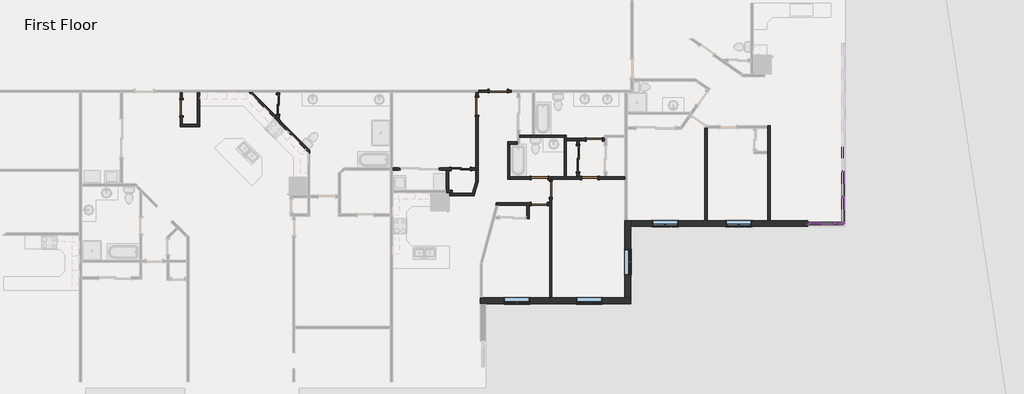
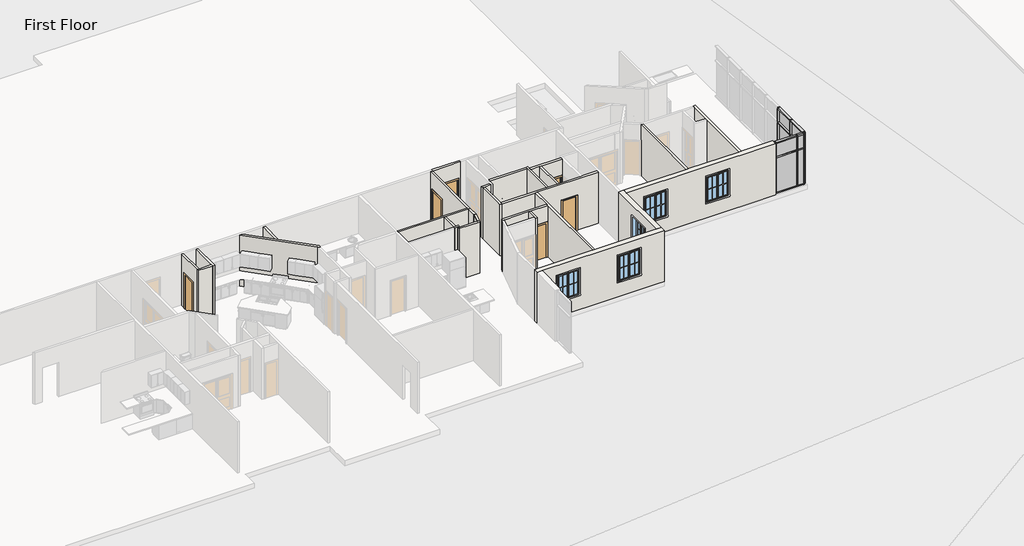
# One storey, part 5 of 17: 28 walls, 25 members, 11 doors, 8 plates, 5 windows.
"""IFC4 building model written with IfcOpenShell, lengths in millimetres."""

from ifc_helpers import new_model, si_unit, frame, origin, origin_with_axes, place, context, project, spatial, polyline, outline, extrude, faceted_brep, transform, mapped, element, save
from components import door_d8f5dbb5, door_f2b275c1, door_825b8444, door_c29894e6, door_88c23cd7, door_900f836f, rectangular_mullion_rectangular_mullion_1_fa3625a1, rectangular_mullion_rectangular_mullion_1_7cbf0b94, rectangular_mullion_rectangular_mullion_1_6186cc23, rectangular_mullion_rectangular_mullion_1_049a2e78, rectangular_mullion_rectangular_mullion_1_a50b3cda, rectangular_mullion_rectangular_mullion_1_5cd4c5ac, rectangular_mullion_rectangular_mullion_1_64aff199, rectangular_mullion_rectangular_mullion_1_b6c962ab, system_panel_glazed_0ed27d1d, system_panel_glazed_134bacdb, system_panel_glazed_a3383988, system_panel_glazed_d9a092fd, window_33528cc2

model = new_model("IFC4")

# Units and contexts
model_context = context("Model", 3, world=origin())
ifc_project = project(units=[si_unit("LENGTHUNIT", "METRE", prefix="MILLI")], contexts=[model_context])

# Site, building, storey
site = spatial("IfcSite", under=ifc_project)
building = spatial("IfcBuilding", under=site)
storey = spatial("IfcBuildingStorey", under=building, Name="First Floor", Elevation=0.0)

# Doors
placement = place(None, origin())
door_shape = door_d8f5dbb5(model_context)
element("IfcDoor", 1, ObjectType="Single-Flush : 30\" x 80\"", at=placement, inside=storey, context=model_context, shape_type="MappedRepresentation", body=[
    mapped(door_shape, transform((51780.2479881, -6937.3917963, 0.0), x_axis=(1.0, 0.0, 0.0), y_axis=(0.0, 1.0, 0.0), z_axis=(0.0, 0.0, 1.0))),
])
element("IfcDoor", 2, ObjectType="Single-Flush : 30\" x 80\"", at=placement, inside=storey, context=model_context, shape_type="MappedRepresentation", body=[
    mapped(door_shape, transform((32213.1466966, -5438.7917963, 0.0), x_axis=(0.0, 1.0, 0.0), y_axis=(-1.0, 0.0, 0.0), z_axis=(0.0, 0.0, 1.0))),
])
door_2_shape = door_f2b275c1(model_context)
element("IfcDoor", 3, ObjectType="Single-Flush : 30\" x 80\"", at=placement, inside=storey, context=model_context, shape_type="MappedRepresentation", body=[
    mapped(door_2_shape, transform((49185.2164857, -10003.6934793, 0.0), x_axis=(1.0, 0.0, 0.0), y_axis=(0.0, 1.0, 0.0), z_axis=(0.0, 0.0, 1.0))),
])
element("IfcDoor", 4, ObjectType="Single-Flush : 30\" x 80\"", at=placement, inside=storey, context=model_context, shape_type="MappedRepresentation", body=[
    mapped(door_2_shape, transform((49722.0869446, -9306.0763206, 0.0), x_axis=(0.0, 1.0, 0.0), y_axis=(-1.0, 0.0, 0.0), z_axis=(0.0, 0.0, 1.0))),
])
element("IfcDoor", 5, ObjectType="Single-Flush : 30\" x 80\"", at=placement, inside=storey, context=model_context, shape_type="MappedRepresentation", body=[
    mapped(door_2_shape, transform((51578.0008306, -8772.6763206, 0.0), x_axis=(-1.0, 0.0, 0.0), y_axis=(0.0, -1.0, 0.0), z_axis=(0.0, 0.0, 1.0))),
])
element("IfcDoor", 6, ObjectType="Single-Flush : 30\" x 80\"", at=placement, inside=storey, context=model_context, shape_type="MappedRepresentation", body=[
    mapped(door_2_shape, transform((49188.6869446, -8772.6763206, 0.0), x_axis=(-1.0, 0.0, 0.0), y_axis=(0.0, -1.0, 0.0), z_axis=(0.0, 0.0, 1.0))),
])
door_3_shape = door_825b8444(model_context)
element("IfcDoor", 7, ObjectType="Single-Flush : 34\" x 80\"", at=placement, inside=storey, context=model_context, shape_type="MappedRepresentation", body=[
    mapped(door_3_shape, transform((47235.4550668, -4651.3917963, 0.0), x_axis=(1.0, 0.0, 0.0), y_axis=(0.0, 1.0, 0.0), z_axis=(0.0, 0.0, 1.0))),
])
door_4_shape = door_c29894e6(model_context)
element("IfcDoor", 8, ObjectType="Single-Flush : 34\" x 80\"", at=placement, inside=storey, context=model_context, shape_type="MappedRepresentation", body=[
    mapped(door_4_shape, transform((46219.4550668, -5362.5917963, 0.0), x_axis=(0.0, 1.0, 0.0), y_axis=(-1.0, 0.0, 0.0), z_axis=(0.0, 0.0, 1.0))),
])
door_5_shape = door_88c23cd7(model_context)
element("IfcDoor", 9, ObjectType="Sliding-Closet : 36\" x 80\"", at=placement, inside=storey, context=model_context, shape_type="MappedRepresentation", body=[
    mapped(door_5_shape, transform((45452.5275875, -8462.220689, 0.0), x_axis=(1.0, 0.0, 0.0), y_axis=(0.0, 1.0, 0.0), z_axis=(0.0, 0.0, 1.0))),
])
element("IfcDoor", 10, ObjectType="Sliding-Closet : 36\" x 80\"", at=placement, inside=storey, context=model_context, shape_type="MappedRepresentation", body=[
    mapped(door_5_shape, transform((36679.0005062, -5286.3917963, 0.0), x_axis=(0.0, -1.0, 0.0), y_axis=(1.0, 0.0, 0.0), z_axis=(0.0, 0.0, 1.0))),
])
door_6_shape = door_900f836f(model_context)
element("IfcDoor", 11, ObjectType="Sliding-Closet : 48\" x 80\"", at=placement, inside=storey, context=model_context, shape_type="MappedRepresentation", body=[
    mapped(door_6_shape, transform((50892.2008306, -7855.0340584, 0.0), x_axis=(0.0, -1.0, 0.0), y_axis=(1.0, 0.0, 0.0), z_axis=(0.0, 0.0, 1.0))),
])

# Members
rectangular_mullion_rectangular_mullion_1_shape = rectangular_mullion_rectangular_mullion_1_fa3625a1(model_context)
element("IfcMember", 12, ObjectType="Rectangular Mullion : Rectangular Mullion 1", at=placement, inside=storey, context=model_context, shape_type="MappedRepresentation", body=[
    mapped(rectangular_mullion_rectangular_mullion_1_shape, transform((63120.5712707, -10920.5254097, 3048.0), x_axis=(0.0, 0.0, 1.0), y_axis=(0.0, -1.0, 0.0), z_axis=(1.0, 0.0, 0.0))),
])
element("IfcMember", 13, ObjectType="Rectangular Mullion : Rectangular Mullion 1", at=placement, inside=storey, context=model_context, shape_type="MappedRepresentation", body=[
    mapped(rectangular_mullion_rectangular_mullion_1_shape, transform((63577.7712704, -9701.3254094, 3048.0), x_axis=(0.0, 0.0, 1.0), y_axis=(1.0, 0.0, 0.0), z_axis=(0.0, 1.0, 0.0))),
])
element("IfcMember", 14, ObjectType="Rectangular Mullion : Rectangular Mullion 1", at=placement, inside=storey, context=model_context, shape_type="MappedRepresentation", body=[
    mapped(rectangular_mullion_rectangular_mullion_1_shape, transform((63577.7712704, -8482.1254094, 3048.0), x_axis=(0.0, 0.0, 1.0), y_axis=(1.0, 0.0, 0.0), z_axis=(0.0, 1.0, 0.0))),
])
element("IfcMember", 15, ObjectType="Rectangular Mullion : Rectangular Mullion 1", at=placement, inside=storey, context=model_context, shape_type="MappedRepresentation", body=[
    mapped(rectangular_mullion_rectangular_mullion_1_shape, transform((61964.8712704, -10920.5254097, 0.0), x_axis=(0.0, 0.0, -1.0), y_axis=(0.0, -1.0, 0.0), z_axis=(-1.0, 0.0, 0.0))),
])
element("IfcMember", 16, ObjectType="Rectangular Mullion : Rectangular Mullion 1", at=placement, inside=storey, context=model_context, shape_type="MappedRepresentation", body=[
    mapped(rectangular_mullion_rectangular_mullion_1_shape, transform((63577.7712704, -10857.0254097, 0.0), x_axis=(0.0, 0.0, -1.0), y_axis=(1.0, 0.0, 0.0), z_axis=(0.0, -1.0, 0.0))),
])
element("IfcMember", 17, ObjectType="Rectangular Mullion : Rectangular Mullion 1", at=placement, inside=storey, context=model_context, shape_type="MappedRepresentation", body=[
    mapped(rectangular_mullion_rectangular_mullion_1_shape, transform((63577.7712704, -9637.8254094, 0.0), x_axis=(0.0, 0.0, -1.0), y_axis=(1.0, 0.0, 0.0), z_axis=(0.0, -1.0, 0.0))),
])
element("IfcMember", 18, ObjectType="Rectangular Mullion : Rectangular Mullion 1", at=placement, inside=storey, context=model_context, shape_type="MappedRepresentation", body=[
    mapped(rectangular_mullion_rectangular_mullion_1_shape, transform((63577.7712704, -8418.6254094, 0.0), x_axis=(0.0, 0.0, -1.0), y_axis=(1.0, 0.0, 0.0), z_axis=(0.0, -1.0, 0.0))),
])
rectangular_mullion_rectangular_mullion_1_2_shape = rectangular_mullion_rectangular_mullion_1_7cbf0b94(model_context)
element("IfcMember", 19, ObjectType="Rectangular Mullion : Rectangular Mullion 1", at=placement, inside=storey, context=model_context, shape_type="MappedRepresentation", body=[
    mapped(rectangular_mullion_rectangular_mullion_1_2_shape, transform((63120.5712707, -10920.5254097, 2165.35), x_axis=(0.0, 0.0, 1.0), y_axis=(0.0, -1.0, 0.0), z_axis=(1.0, 0.0, 0.0))),
])
element("IfcMember", 20, ObjectType="Rectangular Mullion : Rectangular Mullion 1", at=placement, inside=storey, context=model_context, shape_type="MappedRepresentation", body=[
    mapped(rectangular_mullion_rectangular_mullion_1_2_shape, transform((63577.7712704, -9701.3254094, 2165.35), x_axis=(0.0, 0.0, 1.0), y_axis=(1.0, 0.0, 0.0), z_axis=(0.0, 1.0, 0.0))),
])
element("IfcMember", 21, ObjectType="Rectangular Mullion : Rectangular Mullion 1", at=placement, inside=storey, context=model_context, shape_type="MappedRepresentation", body=[
    mapped(rectangular_mullion_rectangular_mullion_1_2_shape, transform((63577.7712704, -8482.1254094, 2165.35), x_axis=(0.0, 0.0, 1.0), y_axis=(1.0, 0.0, 0.0), z_axis=(0.0, 1.0, 0.0))),
])
rectangular_mullion_rectangular_mullion_1_3_shape = rectangular_mullion_rectangular_mullion_1_6186cc23(model_context)
element("IfcMember", 22, ObjectType="Rectangular Mullion : Rectangular Mullion 1", at=placement, inside=storey, context=model_context, shape_type="MappedRepresentation", body=[
    mapped(rectangular_mullion_rectangular_mullion_1_3_shape, transform((63152.3212707, -10920.5254097, 0.0), x_axis=(1.0, 0.0, 0.0), y_axis=(0.0, -1.0, 0.0), z_axis=(0.0, 0.0, -1.0))),
])
element("IfcMember", 23, ObjectType="Rectangular Mullion : Rectangular Mullion 1", at=placement, inside=storey, context=model_context, shape_type="MappedRepresentation", body=[
    mapped(rectangular_mullion_rectangular_mullion_1_3_shape, transform((63577.7712704, -9669.5754094, 0.0), x_axis=(0.0, 1.0, 0.0), y_axis=(1.0, 0.0, 0.0), z_axis=(0.0, 0.0, -1.0))),
])
element("IfcMember", 24, ObjectType="Rectangular Mullion : Rectangular Mullion 1", at=placement, inside=storey, context=model_context, shape_type="MappedRepresentation", body=[
    mapped(rectangular_mullion_rectangular_mullion_1_3_shape, transform((63577.7712704, -8450.3754094, 0.0), x_axis=(0.0, 1.0, 0.0), y_axis=(1.0, 0.0, 0.0), z_axis=(0.0, 0.0, -1.0))),
])
rectangular_mullion_rectangular_mullion_1_4_shape = rectangular_mullion_rectangular_mullion_1_049a2e78(model_context)
element("IfcMember", 25, ObjectType="Rectangular Mullion : Rectangular Mullion 1", at=placement, inside=storey, context=model_context, shape_type="MappedRepresentation", body=[
    mapped(rectangular_mullion_rectangular_mullion_1_4_shape, transform((63152.3212707, -10920.5254097, 2165.35), x_axis=(1.0, 0.0, 0.0), y_axis=(0.0, -1.0, 0.0), z_axis=(0.0, 0.0, -1.0))),
])
element("IfcMember", 26, ObjectType="Rectangular Mullion : Rectangular Mullion 1", at=placement, inside=storey, context=model_context, shape_type="MappedRepresentation", body=[
    mapped(rectangular_mullion_rectangular_mullion_1_4_shape, transform((63577.7712704, -9669.5754094, 2165.35), x_axis=(0.0, 1.0, 0.0), y_axis=(1.0, 0.0, 0.0), z_axis=(0.0, 0.0, -1.0))),
])
element("IfcMember", 27, ObjectType="Rectangular Mullion : Rectangular Mullion 1", at=placement, inside=storey, context=model_context, shape_type="MappedRepresentation", body=[
    mapped(rectangular_mullion_rectangular_mullion_1_4_shape, transform((63577.7712704, -8450.3754094, 2165.35), x_axis=(0.0, 1.0, 0.0), y_axis=(1.0, 0.0, 0.0), z_axis=(0.0, 0.0, -1.0))),
])
rectangular_mullion_rectangular_mullion_1_5_shape = rectangular_mullion_rectangular_mullion_1_a50b3cda(model_context)
element("IfcMember", 28, ObjectType="Rectangular Mullion : Rectangular Mullion 1", at=placement, inside=storey, context=model_context, shape_type="MappedRepresentation", body=[
    mapped(rectangular_mullion_rectangular_mullion_1_5_shape, transform((63577.7712704, -10920.5254097, 0.0), x_axis=(1.0, 0.0, 0.0), y_axis=(0.0, -1.0, 0.0), z_axis=(0.0, 0.0, -1.0))),
])
rectangular_mullion_rectangular_mullion_1_6_shape = rectangular_mullion_rectangular_mullion_1_5cd4c5ac(model_context)
element("IfcMember", 29, ObjectType="Rectangular Mullion : Rectangular Mullion 1", at=placement, inside=storey, context=model_context, shape_type="MappedRepresentation", body=[
    mapped(rectangular_mullion_rectangular_mullion_1_6_shape, transform((63577.7712704, -10920.5254097, 2165.35), x_axis=(1.0, 0.0, 0.0), y_axis=(0.0, -1.0, 0.0), z_axis=(0.0, 0.0, -1.0))),
])
element("IfcMember", 30, ObjectType="Rectangular Mullion : Rectangular Mullion 1", at=placement, inside=storey, context=model_context, shape_type="MappedRepresentation", body=[
    mapped(rectangular_mullion_rectangular_mullion_1_6_shape, transform((61901.3712704, -10920.5254097, 3048.0), x_axis=(-1.0, 0.0, 0.0), y_axis=(0.0, -1.0, 0.0), z_axis=(0.0, 0.0, 1.0))),
])
element("IfcMember", 31, ObjectType="Rectangular Mullion : Rectangular Mullion 1", at=placement, inside=storey, context=model_context, shape_type="MappedRepresentation", body=[
    mapped(rectangular_mullion_rectangular_mullion_1_6_shape, transform((63577.7712704, -10920.5254097, 3048.0), x_axis=(0.0, -1.0, 0.0), y_axis=(1.0, 0.0, 0.0), z_axis=(0.0, 0.0, 1.0))),
])
element("IfcMember", 32, ObjectType="Rectangular Mullion : Rectangular Mullion 1", at=placement, inside=storey, context=model_context, shape_type="MappedRepresentation", body=[
    mapped(rectangular_mullion_rectangular_mullion_1_5_shape, transform((61901.3712704, -10920.5254097, 2165.35), x_axis=(-1.0, 0.0, 0.0), y_axis=(0.0, -1.0, 0.0), z_axis=(0.0, 0.0, 1.0))),
])
element("IfcMember", 33, ObjectType="Rectangular Mullion : Rectangular Mullion 1", at=placement, inside=storey, context=model_context, shape_type="MappedRepresentation", body=[
    mapped(rectangular_mullion_rectangular_mullion_1_5_shape, transform((63577.7712704, -10920.5254097, 2165.35), x_axis=(0.0, -1.0, 0.0), y_axis=(1.0, 0.0, 0.0), z_axis=(0.0, 0.0, 1.0))),
])
rectangular_mullion_rectangular_mullion_1_7_shape = rectangular_mullion_rectangular_mullion_1_64aff199(model_context)
element("IfcMember", 34, ObjectType="Rectangular Mullion : Rectangular Mullion 1", at=placement, inside=storey, context=model_context, shape_type="MappedRepresentation", body=[
    mapped(rectangular_mullion_rectangular_mullion_1_7_shape, transform((63514.2712704, -10920.5254097, 3048.0), x_axis=(0.0, 0.0, 1.0), y_axis=(0.0, -1.0, 0.0), z_axis=(1.0, 0.0, 0.0))),
])
element("IfcMember", 35, ObjectType="Rectangular Mullion : Rectangular Mullion 1", at=placement, inside=storey, context=model_context, shape_type="MappedRepresentation", body=[
    mapped(rectangular_mullion_rectangular_mullion_1_7_shape, transform((63184.0712707, -10920.5254097, 0.0), x_axis=(0.0, 0.0, -1.0), y_axis=(0.0, -1.0, 0.0), z_axis=(-1.0, 0.0, 0.0))),
])
rectangular_mullion_rectangular_mullion_1_8_shape = rectangular_mullion_rectangular_mullion_1_b6c962ab(model_context)
element("IfcMember", 36, ObjectType="Rectangular Mullion : Rectangular Mullion 1", at=placement, inside=storey, context=model_context, shape_type="MappedRepresentation", body=[
    mapped(rectangular_mullion_rectangular_mullion_1_8_shape, transform((63514.2712704, -10920.5254097, 2165.35), x_axis=(0.0, 0.0, 1.0), y_axis=(0.0, -1.0, 0.0), z_axis=(1.0, 0.0, 0.0))),
])

# Plates
system_panel_glazed_shape = system_panel_glazed_0ed27d1d(model_context)
element("IfcPlate", 37, ObjectType="System Panel : Glazed", at=placement, inside=storey, context=model_context, shape_type="MappedRepresentation", body=[
    mapped(system_panel_glazed_shape, transform((62542.7212705, -10920.5254097, 63.5), x_axis=(1.0, 0.0, 0.0), y_axis=(0.0, 1.0, 0.0), z_axis=(0.0, 0.0, 1.0))),
])
element("IfcPlate", 38, ObjectType="System Panel : Glazed", at=placement, inside=storey, context=model_context, shape_type="MappedRepresentation", body=[
    mapped(system_panel_glazed_shape, transform((63577.7712704, -10279.1754095, 63.5), x_axis=(0.0, 1.0, 0.0), y_axis=(-1.0, 0.0, 0.0), z_axis=(0.0, 0.0, 1.0))),
])
element("IfcPlate", 39, ObjectType="System Panel : Glazed", at=placement, inside=storey, context=model_context, shape_type="MappedRepresentation", body=[
    mapped(system_panel_glazed_shape, transform((63577.7712704, -9059.9754094, 63.5), x_axis=(0.0, 1.0, 0.0), y_axis=(-1.0, 0.0, 0.0), z_axis=(0.0, 0.0, 1.0))),
])
system_panel_glazed_2_shape = system_panel_glazed_134bacdb(model_context)
element("IfcPlate", 40, ObjectType="System Panel : Glazed", at=placement, inside=storey, context=model_context, shape_type="MappedRepresentation", body=[
    mapped(system_panel_glazed_2_shape, transform((62542.7212705, -10920.5254097, 2197.1), x_axis=(1.0, 0.0, 0.0), y_axis=(0.0, 1.0, 0.0), z_axis=(0.0, 0.0, 1.0))),
])
element("IfcPlate", 41, ObjectType="System Panel : Glazed", at=placement, inside=storey, context=model_context, shape_type="MappedRepresentation", body=[
    mapped(system_panel_glazed_2_shape, transform((63577.7712704, -10279.1754095, 2197.1), x_axis=(0.0, 1.0, 0.0), y_axis=(-1.0, 0.0, 0.0), z_axis=(0.0, 0.0, 1.0))),
])
element("IfcPlate", 42, ObjectType="System Panel : Glazed", at=placement, inside=storey, context=model_context, shape_type="MappedRepresentation", body=[
    mapped(system_panel_glazed_2_shape, transform((63577.7712704, -9059.9754094, 2197.1), x_axis=(0.0, 1.0, 0.0), y_axis=(-1.0, 0.0, 0.0), z_axis=(0.0, 0.0, 1.0))),
])
system_panel_glazed_3_shape = system_panel_glazed_a3383988(model_context)
element("IfcPlate", 43, ObjectType="System Panel : Glazed", at=placement, inside=storey, context=model_context, shape_type="MappedRepresentation", body=[
    mapped(system_panel_glazed_3_shape, transform((63349.1712705, -10920.5254097, 63.5), x_axis=(1.0, 0.0, 0.0), y_axis=(0.0, 1.0, 0.0), z_axis=(0.0, 0.0, 1.0))),
])
system_panel_glazed_4_shape = system_panel_glazed_d9a092fd(model_context)
element("IfcPlate", 44, ObjectType="System Panel : Glazed", at=placement, inside=storey, context=model_context, shape_type="MappedRepresentation", body=[
    mapped(system_panel_glazed_4_shape, transform((63349.1712705, -10920.5254097, 2197.1), x_axis=(1.0, 0.0, 0.0), y_axis=(0.0, 1.0, 0.0), z_axis=(0.0, 0.0, 1.0))),
])

# Walls
element("IfcWall", 45, ObjectType="Exterior - Brick on Wood Stud", at=placement, inside=storey, context=model_context, shape_type="Brep", body=[
    faceted_brep([(46370.0422255, -14719.4129097, 0.0), (46652.6172255, -14719.4129097, 0.0), (53508.2587704, -14719.4129097, 0.0), (53508.2587704, -14719.4129097, 3048.0), (46652.6172255, -14719.4129097, 3048.0), (46370.0422255, -14719.4129097, 3048.0), (50934.9291075, -14719.4129097, 2438.4), (52154.1291075, -14719.4129097, 2438.4), (52154.1291075, -14719.4129097, 914.4), (50934.9291075, -14719.4129097, 914.4), (47507.1083351, -14719.4129097, 2438.4), (48726.3083351, -14719.4129097, 2438.4), (48726.3083351, -14719.4129097, 914.4), (47507.1083351, -14719.4129097, 914.4), (46370.0422255, -14436.8379097, 0.0), (46370.0422255, -14436.8379097, 3048.0), (46484.3422255, -14436.8379097, 3048.0), (49664.9369446, -14436.8379097, 3048.0), (49779.2369446, -14436.8379097, 3048.0), (53225.6837704, -14436.8379097, 3048.0), (53508.2587704, -14436.8379097, 3048.0), (53508.2587704, -14436.8379097, 0.0), (53225.6837704, -14436.8379097, 0.0), (49779.2369446, -14436.8379097, 0.0), (49664.9369446, -14436.8379097, 0.0), (46484.3422255, -14436.8379097, 0.0), (50934.9291075, -14436.8379097, 2438.4), (50934.9291075, -14436.8379097, 914.4), (52154.1291075, -14436.8379097, 914.4), (52154.1291075, -14436.8379097, 2438.4), (47507.1083351, -14436.8379097, 2438.4), (47507.1083351, -14436.8379097, 914.4), (48726.3083351, -14436.8379097, 914.4), (48726.3083351, -14436.8379097, 2438.4)], [[[0, 1, 2, 3, 4, 5], [6, 7, 8, 9], [10, 11, 12, 13]], [[14, 15, 16, 17, 18, 19, 20, 21, 22, 23, 24, 25], [26, 27, 28, 29], [30, 31, 32, 33]], [[2, 1, 0, 14, 25, 24, 23, 22, 21]], [[5, 4, 3, 20, 19, 18, 17, 16, 15]], [[27, 26, 6, 9]], [[28, 27, 9, 8]], [[29, 28, 8, 7]], [[26, 29, 7, 6]], [[31, 30, 10, 13]], [[32, 31, 13, 12]], [[33, 32, 12, 11]], [[30, 33, 11, 10]], [[0, 5, 15, 14]], [[3, 2, 21, 20]]]),
])
element("IfcWall", 46, ObjectType="Exterior - Brick on Wood Stud", at=placement, inside=storey, context=model_context, shape_type="Brep", body=[
    faceted_brep([(53508.2587704, -14436.8379097, 0.0), (53508.2587704, -11061.8129097, 0.0), (53508.2587704, -10779.2379097, 0.0), (53508.2587704, -10779.2379097, 3048.0), (53508.2587704, -11061.8129097, 3048.0), (53508.2587704, -14436.8379097, 3048.0), (53508.2587704, -13358.9254097, 2438.4), (53508.2587704, -12139.7254097, 2438.4), (53508.2587704, -12139.7254097, 914.4), (53508.2587704, -13358.9254097, 914.4), (53225.6837704, -14436.8379097, 0.0), (53225.6837704, -14436.8379097, 3048.0), (53225.6837704, -10779.2379097, 3048.0), (53225.6837704, -10779.2379097, 0.0), (53225.6837704, -13358.9254097, 2438.4), (53225.6837704, -13358.9254097, 914.4), (53225.6837704, -12139.7254097, 914.4), (53225.6837704, -12139.7254097, 2438.4), (53339.9837704, -10779.2379097, 0.0), (53339.9837704, -10779.2379097, 3048.0)], [[[0, 1, 2, 3, 4, 5], [6, 7, 8, 9]], [[10, 11, 12, 13], [14, 15, 16, 17]], [[2, 1, 0, 10, 13, 18]], [[5, 4, 3, 19, 12, 11]], [[15, 14, 6, 9]], [[16, 15, 9, 8]], [[17, 16, 8, 7]], [[14, 17, 7, 6]], [[3, 2, 18, 13, 12, 19]], [[0, 5, 11, 10]]]),
])
element("IfcWall", 47, ObjectType="Exterior - Brick on Wood Stud", at=placement, inside=storey, context=model_context, shape_type="Brep", body=[
    faceted_brep([(53508.2587704, -11061.8129097, 0.0), (61901.3712704, -11061.8129097, 0.0), (61901.3712704, -11061.8129097, 3048.0), (53508.2587704, -11061.8129097, 3048.0), (58021.3646499, -11061.8129097, 2438.4), (59240.5646499, -11061.8129097, 2438.4), (59240.5646499, -11061.8129097, 914.4), (58021.3646499, -11061.8129097, 914.4), (54535.3712704, -11061.8129097, 2438.4), (55754.5712704, -11061.8129097, 2438.4), (55754.5712704, -11061.8129097, 914.4), (54535.3712704, -11061.8129097, 914.4), (53508.2587704, -10779.2379097, 0.0), (53508.2587704, -10779.2379097, 3048.0), (57029.5575892, -10779.2379097, 3048.0), (57143.8575892, -10779.2379097, 3048.0), (60016.4717107, -10779.2379097, 3048.0), (60130.7717107, -10779.2379097, 3048.0), (61901.3712704, -10779.2379097, 3048.0), (61901.3712704, -10779.2379097, 0.0), (60130.7717107, -10779.2379097, 0.0), (60016.4717107, -10779.2379097, 0.0), (57143.8575892, -10779.2379097, 0.0), (57029.5575892, -10779.2379097, 0.0), (58021.3646499, -10779.2379097, 2438.4), (58021.3646499, -10779.2379097, 914.4), (59240.5646499, -10779.2379097, 914.4), (59240.5646499, -10779.2379097, 2438.4), (54535.3712704, -10779.2379097, 2438.4), (54535.3712704, -10779.2379097, 914.4), (55754.5712704, -10779.2379097, 914.4), (55754.5712704, -10779.2379097, 2438.4)], [[[0, 1, 2, 3], [4, 5, 6, 7], [8, 9, 10, 11]], [[12, 13, 14, 15, 16, 17, 18, 19, 20, 21, 22, 23], [24, 25, 26, 27], [28, 29, 30, 31]], [[1, 0, 12, 23, 22, 21, 20, 19]], [[2, 1, 19, 18]], [[3, 2, 18, 17, 16, 15, 14, 13]], [[25, 24, 4, 7]], [[26, 25, 7, 6]], [[27, 26, 6, 5]], [[24, 27, 5, 4]], [[29, 28, 8, 11]], [[30, 29, 11, 10]], [[31, 30, 10, 9]], [[28, 31, 9, 8]], [[0, 3, 13, 12]]]),
])
element("IfcWall", 48, ObjectType="Interior - 4 1/2\" Partition", at=placement, inside=storey, context=model_context, shape_type="Brep", body=[
    faceted_brep([(38310.9505062, -7451.1325257, 0.0), (36863.1505062, -6003.3325257, 0.0), (36748.8505062, -5889.0325257, 0.0), (35568.3597768, -4708.5417963, 0.0), (35568.3597768, -4708.5417963, 3048.0), (36748.8505062, -5889.0325257, 3048.0), (36863.1505062, -6003.3325257, 3048.0), (38310.9505062, -7451.1325257, 3048.0), (38310.9505062, -7612.7771359, 0.0), (38310.9505062, -7612.7771359, 3048.0), (38196.6505062, -7498.4771359, 3048.0), (35406.7151666, -4708.5417963, 3048.0), (35406.7151666, -4708.5417963, 0.0), (38196.6505062, -7498.4771359, 0.0)], [[[0, 1, 2, 3, 4, 5, 6, 7]], [[8, 9, 10, 11, 12, 13]], [[3, 2, 1, 0, 8, 13, 12]], [[7, 6, 5, 4, 11, 10, 9]], [[0, 7, 9, 8]], [[4, 3, 12, 11]]]),
])
element("IfcWall", 49, ObjectType="Interior - 4 1/2\" Partition", at=placement, inside=storey, context=model_context, shape_type="Brep", body=[
    faceted_brep([(32968.7966966, -4708.5417963, 0.0), (32968.7966966, -6227.7127707, 0.0), (32968.7966966, -6342.0127707, 0.0), (32968.7966966, -6342.0127707, 3048.0), (32968.7966966, -6227.7127707, 3048.0), (32968.7966966, -4708.5417963, 3048.0), (33083.0966966, -4708.5417963, 0.0), (33083.0966966, -4708.5417963, 3048.0), (33083.0966966, -6342.0127707, 3048.0), (33083.0966966, -6342.0127707, 0.0)], [[[0, 1, 2, 3, 4, 5]], [[6, 7, 8, 9]], [[2, 1, 0, 6, 9]], [[5, 4, 3, 8, 7]], [[3, 2, 9, 8]], [[0, 5, 7, 6]]]),
])
element("IfcWall", 50, ObjectType="Interior - 4 1/2\" Partition", at=placement, inside=storey, context=model_context, shape_type="Brep", body=[
    faceted_brep([(32968.7966966, -6227.7127707, 0.0), (32270.2966966, -6227.7127707, 0.0), (32155.9966966, -6227.7127707, 0.0), (32155.9966966, -6227.7127707, 3048.0), (32270.2966966, -6227.7127707, 3048.0), (32968.7966966, -6227.7127707, 3048.0), (32968.7966966, -6342.0127707, 0.0), (32968.7966966, -6342.0127707, 3048.0), (32155.9966966, -6342.0127707, 3048.0), (32155.9966966, -6342.0127707, 0.0)], [[[0, 1, 2, 3, 4, 5]], [[6, 7, 8, 9]], [[2, 1, 0, 6, 9]], [[5, 4, 3, 8, 7]], [[3, 2, 9, 8]], [[0, 5, 7, 6]]]),
])
element("IfcWall", 51, ObjectType="Interior - 4 1/2\" Partition", at=placement, inside=storey, context=model_context, shape_type="SweptSolid", body=[
    extrude(outline(polyline([(-4708.5417963, 0.0), (-5057.7917963, 0.0), (-5057.7917963, 2032.0), (-5819.7917963, 2032.0), (-5819.7917963, 0.0), (-6227.7127707, 0.0), (-6227.7127707, 3048.0), (-4708.5417963, 3048.0), (-4708.5417963, 0.0)])), frame((32155.9966966, 0.0, 0.0), z_axis=(1.0, 0.0, 0.0), x_axis=(0.0, 1.0, 0.0)), (0.0, 0.0, 1.0), 114.3),
])
element("IfcWall", 52, ObjectType="Interior - 4 1/2\" Partition", at=placement, inside=storey, context=model_context, shape_type="Brep", body=[
    faceted_brep([(46162.3050668, -4708.5417963, 0.0), (46162.3050668, -4930.7917963, 0.0), (46162.3050668, -4930.7917963, 2032.0), (46162.3050668, -5794.3917963, 2032.0), (46162.3050668, -5794.3917963, 0.0), (46162.3050668, -8278.070689, 0.0), (46162.3050668, -8392.370689, 0.0), (46162.3050668, -8392.370689, 3048.0), (46162.3050668, -8278.070689, 3048.0), (46162.3050668, -4708.5417963, 3048.0), (46276.6050668, -4930.7917963, 2032.0), (46276.6050668, -4930.7917963, 0.0), (46276.6050668, -4708.5417963, 0.0), (46276.6050668, -4708.5417963, 3048.0), (46276.6050668, -8392.370689, 3048.0), (46276.6050668, -8392.370689, 0.0), (46276.6050668, -5794.3917963, 0.0), (46276.6050668, -5794.3917963, 2032.0)], [[[0, 1, 2, 3, 4, 5, 6, 7, 8, 9]], [[10, 11, 12, 13, 14, 15, 16, 17]], [[16, 15, 6, 5, 4]], [[12, 11, 1, 0]], [[9, 8, 7, 14, 13]], [[2, 1, 11, 10]], [[3, 2, 10, 17]], [[4, 3, 17, 16]], [[7, 6, 15, 14]], [[0, 9, 13, 12]]]),
])
element("IfcWall", 53, ObjectType="Interior - 4 1/2\" Partition", at=placement, inside=storey, context=model_context, shape_type="SweptSolid", body=[
    extrude(outline(polyline([(2032.0, 47667.2550668), (0.0, 47667.2550668), (0.0, 47845.0550668), (3048.0, 47845.0550668), (3048.0, 46276.6050668), (0.0, 46276.6050668), (0.0, 46803.6550668), (2032.0, 46803.6550668), (2032.0, 47667.2550668)])), frame((0.0, -4708.5417963, 0.0), z_axis=(0.0, 1.0, 0.0), x_axis=(0.0, 0.0, 1.0)), (0.0, 0.0, 1.0), 114.3),
])
element("IfcWall", 54, ObjectType="Interior - 4 1/2\" Partition", at=placement, inside=storey, context=model_context, shape_type="Brep", body=[
    faceted_brep([(46162.3050668, -8278.070689, 0.0), (45909.7275875, -8278.070689, 0.0), (45909.7275875, -8278.070689, 2032.0), (44995.3275875, -8278.070689, 2032.0), (44995.3275875, -8278.070689, 0.0), (44416.9485687, -8278.070689, 0.0), (44416.9485687, -8278.070689, 2032.0), (42588.1485687, -8278.070689, 2032.0), (42588.1485687, -8278.070689, 0.0), (42224.2470292, -8278.070689, 0.0), (42224.2470292, -8278.070689, 3048.0), (46162.3050668, -8278.070689, 3048.0), (45909.7275875, -8392.370689, 2032.0), (45909.7275875, -8392.370689, 0.0), (46162.3050668, -8392.370689, 0.0), (46162.3050668, -8392.370689, 3048.0), (44895.1501082, -8392.370689, 3048.0), (44780.8501082, -8392.370689, 3048.0), (42224.2470292, -8392.370689, 3048.0), (42224.2470292, -8392.370689, 0.0), (42588.1485687, -8392.370689, 0.0), (42588.1485687, -8392.370689, 2032.0), (44416.9485687, -8392.370689, 2032.0), (44416.9485687, -8392.370689, 0.0), (44780.8501082, -8392.370689, 0.0), (44895.1501082, -8392.370689, 0.0), (44995.3275875, -8392.370689, 0.0), (44995.3275875, -8392.370689, 2032.0)], [[[0, 1, 2, 3, 4, 5, 6, 7, 8, 9, 10, 11]], [[12, 13, 14, 15, 16, 17, 18, 19, 20, 21, 22, 23, 24, 25, 26, 27]], [[20, 19, 9, 8]], [[14, 13, 1, 0]], [[26, 25, 24, 23, 5, 4]], [[11, 10, 18, 17, 16, 15]], [[8, 7, 21, 20]], [[6, 5, 23, 22]], [[7, 6, 22, 21]], [[4, 3, 27, 26]], [[2, 1, 13, 12]], [[3, 2, 12, 27]], [[0, 11, 15, 14]], [[10, 9, 19, 18]]]),
])
element("IfcWall", 55, ObjectType="Interior - 4 1/2\" Partition", at=placement, inside=storey, context=model_context, shape_type="SweptSolid", body=[
    extrude(outline(polyline([(46162.3050668, -8935.5417122), (46162.3050668, -8392.370689), (46276.6050668, -8392.370689), (46276.6050668, -8950.5895927), (46162.3050668, -8935.5417122)])), origin_with_axes(), (0.0, 0.0, 1.0), 3048.0),
])
element("IfcWall", 56, ObjectType="Interior - 4 1/2\" Partition", at=placement, inside=storey, context=model_context, shape_type="Brep", body=[
    faceted_brep([(46131.0628298, -9493.760616, 0.0), (46012.7307624, -9493.760616, 0.0), (45047.5501082, -9493.760616, 0.0), (44933.2501082, -9493.760616, 0.0), (44933.2501082, -9493.760616, 3048.0), (45047.5501082, -9493.760616, 3048.0), (46012.7307624, -9493.760616, 3048.0), (46131.0628298, -9493.760616, 3048.0), (46100.4362371, -9608.060616, 0.0), (46100.4362371, -9608.060616, 3048.0), (44933.2501082, -9608.060616, 3048.0), (44933.2501082, -9608.060616, 0.0)], [[[0, 1, 2, 3, 4, 5, 6, 7]], [[8, 9, 10, 11]], [[3, 2, 1, 0, 8, 11]], [[7, 6, 5, 4, 10, 9]], [[0, 7, 9, 8]], [[4, 3, 11, 10]]]),
])
element("IfcWall", 57, ObjectType="Interior - 4 1/2\" Partition", at=placement, inside=storey, context=model_context, shape_type="Brep", body=[
    faceted_brep([(45047.5501082, -9338.0876998, 0.0), (44895.1501082, -9338.0876998, 0.0), (44780.8501082, -9338.0876998, 0.0), (44780.8501082, -9338.0876998, 3048.0), (44895.1501082, -9338.0876998, 3048.0), (45047.5501082, -9338.0876998, 3048.0), (45047.5501082, -9452.3876998, 0.0), (45047.5501082, -9452.3876998, 3048.0), (44933.2501082, -9452.3876998, 3048.0), (44780.8501082, -9452.3876998, 3048.0), (44780.8501082, -9452.3876998, 0.0), (44933.2501082, -9452.3876998, 0.0)], [[[0, 1, 2, 3, 4, 5]], [[6, 7, 8, 9, 10, 11]], [[2, 1, 0, 6, 11, 10]], [[5, 4, 3, 9, 8, 7]], [[0, 5, 7, 6]], [[3, 2, 10, 9]]]),
])
element("IfcWall", 58, ObjectType="Interior - 4 1/2\" Partition", at=placement, inside=storey, context=model_context, shape_type="SweptSolid", body=[
    extrude(outline(polyline([(44895.1501082, -8392.370689), (44895.1501082, -9338.0876998), (44780.8501082, -9338.0876998), (44780.8501082, -8392.370689), (44895.1501082, -8392.370689)])), origin_with_axes(), (0.0, 0.0, 1.0), 3048.0),
])
element("IfcWall", 59, ObjectType="Interior - 4 1/2\" Partition", at=placement, inside=storey, context=model_context, shape_type="Brep", body=[
    faceted_brep([(50352.4508306, -6727.8417963, 0.0), (48969.0050668, -6727.8417963, 0.0), (48854.7050668, -6727.8417963, 0.0), (48257.8050668, -6727.8417963, 0.0), (48257.8050668, -6727.8417963, 3048.0), (48854.7050668, -6727.8417963, 3048.0), (48969.0050668, -6727.8417963, 3048.0), (50352.4508306, -6727.8417963, 3048.0), (50352.4508306, -6842.1417963, 0.0), (50352.4508306, -6842.1417963, 3048.0), (48257.8050668, -6842.1417963, 3048.0), (48257.8050668, -6842.1417963, 0.0)], [[[0, 1, 2, 3, 4, 5, 6, 7]], [[8, 9, 10, 11]], [[3, 2, 1, 0, 8, 11]], [[7, 6, 5, 4, 10, 9]], [[0, 7, 9, 8]], [[4, 3, 11, 10]]]),
])
element("IfcWall", 60, ObjectType="Interior - 4 1/2\" Partition", at=placement, inside=storey, context=model_context, shape_type="Brep", body=[
    faceted_brep([(48143.5050668, -7042.3192831, 0.0), (47676.7960269, -7042.3192831, 0.0), (47676.7960269, -7042.3192831, 3048.0), (48143.5050668, -7042.3192831, 3048.0), (48143.5050668, -7156.6192831, 0.0), (48143.5050668, -7156.6192831, 3048.0), (47791.0960269, -7156.6192831, 3048.0), (47676.7960269, -7156.6192831, 3048.0), (47676.7960269, -7156.6192831, 0.0), (47791.0960269, -7156.6192831, 0.0)], [[[0, 1, 2, 3]], [[4, 5, 6, 7, 8, 9]], [[1, 0, 4, 9, 8]], [[3, 2, 7, 6, 5]], [[2, 1, 8, 7]], [[0, 3, 5, 4]]]),
])
element("IfcWall", 61, ObjectType="Interior - 4 1/2\" Partition", at=placement, inside=storey, context=model_context, shape_type="Brep", body=[
    faceted_brep([(47676.7960269, -7156.6192831, 0.0), (47676.7960269, -8829.8263206, 0.0), (47676.7960269, -8829.8263206, 3048.0), (47676.7960269, -7156.6192831, 3048.0), (47791.0960269, -7156.6192831, 0.0), (47791.0960269, -7156.6192831, 3048.0), (47791.0960269, -8715.5263206, 3048.0), (47791.0960269, -8829.8263206, 3048.0), (47791.0960269, -8829.8263206, 0.0), (47791.0960269, -8715.5263206, 0.0)], [[[0, 1, 2, 3]], [[4, 5, 6, 7, 8, 9]], [[1, 0, 4, 9, 8]], [[3, 2, 7, 6, 5]], [[2, 1, 8, 7]], [[0, 3, 5, 4]]]),
])
element("IfcWall", 62, ObjectType="Interior - 4 1/2\" Partition", at=placement, inside=storey, context=model_context, shape_type="Brep", body=[
    faceted_brep([(47791.0960269, -8829.8263206, 0.0), (48807.6869446, -8829.8263206, 0.0), (48807.6869446, -8829.8263206, 2032.0), (49569.6869446, -8829.8263206, 2032.0), (49569.6869446, -8829.8263206, 0.0), (49664.9369446, -8829.8263206, 0.0), (49779.2369446, -8829.8263206, 0.0), (51197.0008306, -8829.8263206, 0.0), (51197.0008306, -8829.8263206, 2032.0), (51959.0008306, -8829.8263206, 2032.0), (51959.0008306, -8829.8263206, 0.0), (53225.6837704, -8829.8263206, 0.0), (53225.6837704, -8829.8263206, 3048.0), (49779.2369446, -8829.8263206, 3048.0), (49664.9369446, -8829.8263206, 3048.0), (47791.0960269, -8829.8263206, 3048.0), (48807.6869446, -8715.5263206, 2032.0), (48807.6869446, -8715.5263206, 0.0), (47791.0960269, -8715.5263206, 0.0), (47791.0960269, -8715.5263206, 3048.0), (50352.4508306, -8715.5263206, 3048.0), (50466.7508306, -8715.5263206, 3048.0), (50962.0508306, -8715.5263206, 3048.0), (51076.3508306, -8715.5263206, 3048.0), (52256.4979881, -8715.5263206, 3048.0), (52370.7979881, -8715.5263206, 3048.0), (53225.6837704, -8715.5263206, 3048.0), (53225.6837704, -8715.5263206, 0.0), (52370.7979881, -8715.5263206, 0.0), (52256.4979881, -8715.5263206, 0.0), (51959.0008306, -8715.5263206, 0.0), (51959.0008306, -8715.5263206, 2032.0), (51197.0008306, -8715.5263206, 2032.0), (51197.0008306, -8715.5263206, 0.0), (51076.3508306, -8715.5263206, 0.0), (50962.0508306, -8715.5263206, 0.0), (50466.7508306, -8715.5263206, 0.0), (50352.4508306, -8715.5263206, 0.0), (49569.6869446, -8715.5263206, 0.0), (49569.6869446, -8715.5263206, 2032.0)], [[[0, 1, 2, 3, 4, 5, 6, 7, 8, 9, 10, 11, 12, 13, 14, 15]], [[16, 17, 18, 19, 20, 21, 22, 23, 24, 25, 26, 27, 28, 29, 30, 31, 32, 33, 34, 35, 36, 37, 38, 39]], [[30, 29, 28, 27, 11, 10]], [[18, 17, 1, 0]], [[38, 37, 36, 35, 34, 33, 7, 6, 5, 4]], [[15, 14, 13, 12, 26, 25, 24, 23, 22, 21, 20, 19]], [[8, 7, 33, 32]], [[9, 8, 32, 31]], [[10, 9, 31, 30]], [[2, 1, 17, 16]], [[3, 2, 16, 39]], [[4, 3, 39, 38]], [[0, 15, 19, 18]], [[12, 11, 27, 26]]]),
])
element("IfcWall", 63, ObjectType="Interior - 4 1/2\" Partition", at=placement, inside=storey, context=model_context, shape_type="Brep", body=[
    faceted_brep([(50466.7508306, -8715.5263206, 0.0), (50466.7508306, -6994.5417963, 0.0), (50466.7508306, -6880.2417963, 0.0), (50466.7508306, -6727.8417963, 0.0), (50466.7508306, -6727.8417963, 3048.0), (50466.7508306, -6880.2417963, 3048.0), (50466.7508306, -6994.5417963, 3048.0), (50466.7508306, -8715.5263206, 3048.0), (50352.4508306, -8715.5263206, 0.0), (50352.4508306, -8715.5263206, 3048.0), (50352.4508306, -6842.1417963, 3048.0), (50352.4508306, -6727.8417963, 3048.0), (50352.4508306, -6727.8417963, 0.0), (50352.4508306, -6842.1417963, 0.0)], [[[0, 1, 2, 3, 4, 5, 6, 7]], [[8, 9, 10, 11, 12, 13]], [[3, 2, 1, 0, 8, 13, 12]], [[7, 6, 5, 4, 11, 10, 9]], [[4, 3, 12, 11]], [[0, 7, 9, 8]]]),
])
element("IfcWall", 64, ObjectType="Interior - 4 1/2\" Partition", at=placement, inside=storey, context=model_context, shape_type="Brep", body=[
    faceted_brep([(52256.4979881, -6880.2417963, 0.0), (52161.2479881, -6880.2417963, 0.0), (52161.2479881, -6880.2417963, 2032.0), (51399.2479881, -6880.2417963, 2032.0), (51399.2479881, -6880.2417963, 0.0), (50466.7508306, -6880.2417963, 0.0), (50466.7508306, -6880.2417963, 3048.0), (52256.4979881, -6880.2417963, 3048.0), (52161.2479881, -6994.5417963, 2032.0), (52161.2479881, -6994.5417963, 0.0), (52256.4979881, -6994.5417963, 0.0), (52256.4979881, -6994.5417963, 3048.0), (51076.3508306, -6994.5417963, 3048.0), (50962.0508306, -6994.5417963, 3048.0), (50466.7508306, -6994.5417963, 3048.0), (50466.7508306, -6994.5417963, 0.0), (50962.0508306, -6994.5417963, 0.0), (51076.3508306, -6994.5417963, 0.0), (51399.2479881, -6994.5417963, 0.0), (51399.2479881, -6994.5417963, 2032.0)], [[[0, 1, 2, 3, 4, 5, 6, 7]], [[8, 9, 10, 11, 12, 13, 14, 15, 16, 17, 18, 19]], [[10, 9, 1, 0]], [[18, 17, 16, 15, 5, 4]], [[7, 6, 14, 13, 12, 11]], [[2, 1, 9, 8]], [[3, 2, 8, 19]], [[4, 3, 19, 18]], [[0, 7, 11, 10]], [[6, 5, 15, 14]]]),
])
element("IfcWall", 65, ObjectType="Interior - 4 1/2\" Partition", at=placement, inside=storey, context=model_context, shape_type="Brep", body=[
    faceted_brep([(49779.2369446, -8925.0763206, 2032.0), (49779.2369446, -8925.0763206, 0.0), (49779.2369446, -8829.8263206, 0.0), (49779.2369446, -8829.8263206, 3048.0), (49779.2369446, -14436.8379097, 3048.0), (49779.2369446, -14436.8379097, 0.0), (49779.2369446, -9687.0763206, 0.0), (49779.2369446, -9687.0763206, 2032.0), (49664.9369446, -8829.8263206, 0.0), (49664.9369446, -8925.0763206, 0.0), (49664.9369446, -8925.0763206, 2032.0), (49664.9369446, -9687.0763206, 2032.0), (49664.9369446, -9687.0763206, 0.0), (49664.9369446, -9946.5434793, 0.0), (49664.9369446, -10060.8434793, 0.0), (49664.9369446, -14436.8379097, 0.0), (49664.9369446, -14436.8379097, 3048.0), (49664.9369446, -10060.8434793, 3048.0), (49664.9369446, -9946.5434793, 3048.0), (49664.9369446, -8829.8263206, 3048.0)], [[[0, 1, 2, 3, 4, 5, 6, 7]], [[8, 9, 10, 11, 12, 13, 14, 15, 16, 17, 18, 19]], [[6, 5, 15, 14, 13, 12]], [[2, 1, 9, 8]], [[4, 3, 19, 18, 17, 16]], [[10, 9, 1, 0]], [[11, 10, 0, 7]], [[12, 11, 7, 6]], [[3, 2, 8, 19]], [[5, 4, 16, 15]]]),
])
element("IfcWall", 66, ObjectType="Interior - 4 1/2\" Partition", at=placement, inside=storey, context=model_context, shape_type="Brep", body=[
    faceted_brep([(49664.9369446, -9946.5434793, 0.0), (49566.2164857, -9946.5434793, 0.0), (49566.2164857, -9946.5434793, 2032.0), (48804.2164857, -9946.5434793, 2032.0), (48804.2164857, -9946.5434793, 0.0), (47138.2342072, -9946.5434793, 0.0), (47138.2342072, -9946.5434793, 3048.0), (49664.9369446, -9946.5434793, 3048.0), (49566.2164857, -10060.8434793, 2032.0), (49566.2164857, -10060.8434793, 0.0), (49664.9369446, -10060.8434793, 0.0), (49664.9369446, -10060.8434793, 3048.0), (48705.4960269, -10060.8434793, 3048.0), (48591.1960269, -10060.8434793, 3048.0), (47225.9396819, -10060.8434793, 3048.0), (47107.6076145, -10060.8434793, 3048.0), (47107.6076145, -10060.8434793, 0.0), (47225.9396819, -10060.8434793, 0.0), (48591.1960269, -10060.8434793, 0.0), (48705.4960269, -10060.8434793, 0.0), (48804.2164857, -10060.8434793, 0.0), (48804.2164857, -10060.8434793, 2032.0)], [[[0, 1, 2, 3, 4, 5, 6, 7]], [[8, 9, 10, 11, 12, 13, 14, 15, 16, 17, 18, 19, 20, 21]], [[10, 9, 1, 0]], [[20, 19, 18, 17, 16, 5, 4]], [[7, 6, 15, 14, 13, 12, 11]], [[2, 1, 9, 8]], [[3, 2, 8, 21]], [[4, 3, 21, 20]], [[6, 5, 16, 15]], [[0, 7, 11, 10]]]),
])
element("IfcWall", 67, ObjectType="Interior - 4 1/2\" Partition", at=placement, inside=storey, context=model_context, shape_type="Brep", body=[
    faceted_brep([(48591.1960269, -10060.8434793, 0.0), (48591.1960269, -10589.5902375, 0.0), (48591.1960269, -10703.8902375, 0.0), (48591.1960269, -10703.8902375, 3048.0), (48591.1960269, -10589.5902375, 3048.0), (48591.1960269, -10060.8434793, 3048.0), (48705.4960269, -10060.8434793, 0.0), (48705.4960269, -10060.8434793, 3048.0), (48705.4960269, -10703.8902375, 3048.0), (48705.4960269, -10703.8902375, 0.0)], [[[0, 1, 2, 3, 4, 5]], [[6, 7, 8, 9]], [[2, 1, 0, 6, 9]], [[5, 4, 3, 8, 7]], [[3, 2, 9, 8]], [[0, 5, 7, 6]]]),
])
element("IfcWall", 68, ObjectType="Interior - 4 1/2\" Partition", at=placement, inside=storey, context=model_context, shape_type="Brep", body=[
    faceted_brep([(60130.7717107, -10779.2379097, 0.0), (60130.7717107, -6283.2056742, 0.0), (60130.7717107, -6283.2056742, 3048.0), (60130.7717107, -10779.2379097, 3048.0), (60016.4717107, -10779.2379097, 0.0), (60016.4717107, -10779.2379097, 3048.0), (60016.4717107, -7613.3273501, 3048.0), (60016.4717107, -7499.0273501, 3048.0), (60016.4717107, -6397.5056742, 3048.0), (60016.4717107, -6283.2056742, 3048.0), (60016.4717107, -6283.2056742, 0.0), (60016.4717107, -6397.5056742, 0.0), (60016.4717107, -7499.0273501, 0.0), (60016.4717107, -7613.3273501, 0.0)], [[[0, 1, 2, 3]], [[4, 5, 6, 7, 8, 9, 10, 11, 12, 13]], [[1, 0, 4, 13, 12, 11, 10]], [[3, 2, 9, 8, 7, 6, 5]], [[2, 1, 10, 9]], [[0, 3, 5, 4]]]),
])
element("IfcWall", 69, ObjectType="Interior - 4 1/2\" Partition", at=placement, inside=storey, context=model_context, shape_type="SweptSolid", body=[
    extrude(outline(polyline([(57029.5575892, -10779.2379097), (57029.5575892, -6397.5056742), (57143.8575892, -6397.5056742), (57143.8575892, -10779.2379097), (57029.5575892, -10779.2379097)])), origin_with_axes(), (0.0, 0.0, 1.0), 3048.0),
])
element("IfcWall", 70, ObjectType="Interior - 4 1/2\" Partition", at=placement, inside=storey, context=model_context, shape_type="SweptSolid", body=[
    extrude(outline(polyline([(-8464.6340584, 2032.0), (-8464.6340584, 0.0), (-8715.5263206, 0.0), (-8715.5263206, 3048.0), (-6994.5417963, 3048.0), (-6994.5417963, 0.0), (-7245.4340584, 0.0), (-7245.4340584, 2032.0), (-8464.6340584, 2032.0)])), frame((50962.0508306, 0.0, 0.0), z_axis=(1.0, 0.0, 0.0), x_axis=(0.0, 1.0, 0.0)), (0.0, 0.0, 1.0), 114.3),
])
element("IfcWall", 71, ObjectType="Interior - 4 1/2\" Partition", at=placement, inside=storey, context=model_context, shape_type="SweptSolid", body=[
    extrude(outline(polyline([(46012.7307624, -9493.760616), (46162.3050668, -8935.5417122), (46276.6050668, -8950.5895927), (46131.0628298, -9493.760616), (46012.7307624, -9493.760616)])), origin_with_axes(), (0.0, 0.0, 1.0), 3048.0),
])
element("IfcWall", 72, ObjectType="Interior - 4 1/2\" Partition", at=placement, inside=storey, context=model_context, shape_type="Brep", body=[
    faceted_brep([(36748.8505062, -5743.5917963, 2032.0), (36748.8505062, -5743.5917963, 0.0), (36748.8505062, -5889.0325257, 0.0), (36748.8505062, -5889.0325257, 3048.0), (36748.8505062, -4708.5417963, 3048.0), (36748.8505062, -4708.5417963, 0.0), (36748.8505062, -4829.1917963, 0.0), (36748.8505062, -4829.1917963, 2032.0), (36863.1505062, -6003.3325257, 0.0), (36863.1505062, -5743.5917963, 0.0), (36863.1505062, -5743.5917963, 2032.0), (36863.1505062, -4829.1917963, 2032.0), (36863.1505062, -4829.1917963, 0.0), (36863.1505062, -4708.5417963, 0.0), (36863.1505062, -4708.5417963, 3048.0), (36863.1505062, -6003.3325257, 3048.0)], [[[0, 1, 2, 3, 4, 5, 6, 7]], [[8, 9, 10, 11, 12, 13, 14, 15]], [[6, 5, 13, 12]], [[2, 1, 9, 8]], [[4, 3, 15, 14]], [[12, 11, 7, 6]], [[10, 9, 1, 0]], [[11, 10, 0, 7]], [[3, 2, 8, 15]], [[5, 4, 14, 13]]]),
])

# Windows
window_shape = window_33528cc2(model_context)
element("IfcWindow", 73, ObjectType="Window-Casement-Double : 48\" x 60\"", at=placement, inside=storey, context=model_context, shape_type="MappedRepresentation", body=[
    mapped(window_shape, transform((53366.9712704, -12749.3254097, 0.0), x_axis=(0.0, -1.0, 0.0), y_axis=(1.0, 0.0, 0.0), z_axis=(0.0, 0.0, 1.0))),
])
element("IfcWindow", 74, ObjectType="Window-Casement-Double : 48\" x 60\"", at=placement, inside=storey, context=model_context, shape_type="MappedRepresentation", body=[
    mapped(window_shape, transform((51544.5291075, -14578.1254097, 0.0), x_axis=(-1.0, 0.0, 0.0), y_axis=(0.0, -1.0, 0.0), z_axis=(0.0, 0.0, 1.0))),
])
element("IfcWindow", 75, ObjectType="Window-Casement-Double : 48\" x 60\"", at=placement, inside=storey, context=model_context, shape_type="MappedRepresentation", body=[
    mapped(window_shape, transform((48116.7083351, -14578.1254097, 0.0), x_axis=(-1.0, 0.0, 0.0), y_axis=(0.0, -1.0, 0.0), z_axis=(0.0, 0.0, 1.0))),
])
element("IfcWindow", 76, ObjectType="Window-Casement-Double : 48\" x 60\"", at=placement, inside=storey, context=model_context, shape_type="MappedRepresentation", body=[
    mapped(window_shape, transform((58630.9646499, -10920.5254097, 0.0), x_axis=(-1.0, 0.0, 0.0), y_axis=(0.0, -1.0, 0.0), z_axis=(0.0, 0.0, 1.0))),
])
element("IfcWindow", 77, ObjectType="Window-Casement-Double : 48\" x 60\"", at=placement, inside=storey, context=model_context, shape_type="MappedRepresentation", body=[
    mapped(window_shape, transform((55144.9712704, -10920.5254097, 0.0), x_axis=(-1.0, 0.0, 0.0), y_axis=(0.0, -1.0, 0.0), z_axis=(0.0, 0.0, 1.0))),
])

save(model, "model.ifc")
